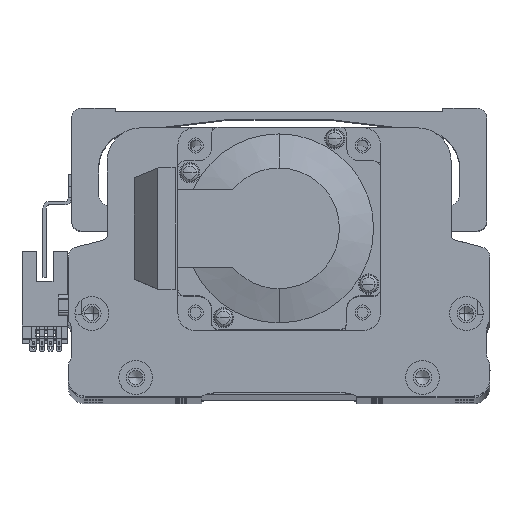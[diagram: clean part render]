
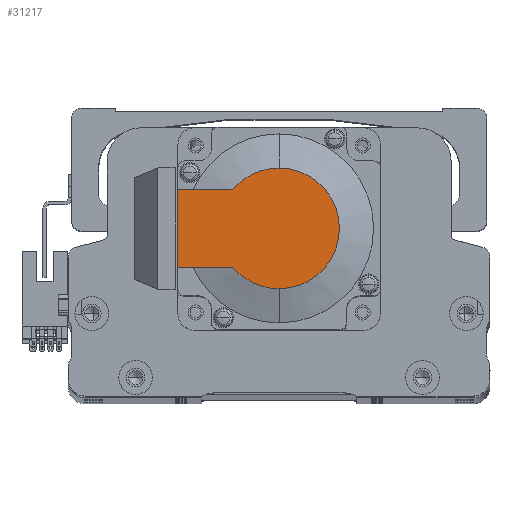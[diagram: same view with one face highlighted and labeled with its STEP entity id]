
A CAD part, top view. The second image highlights one B-rep face of the part: STEP entity #31217.
In plain terms, the highlighted planar face has unit normal (0, 0, 1) as drawn and (-1, 0, 0) by its records, which use the part's own axes.
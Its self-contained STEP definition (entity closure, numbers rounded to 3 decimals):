
#27 = DIRECTION ( 'NONE',  ( -1., 0., 0. ) ) ;
#818 = VERTEX_POINT ( 'NONE', #15491 ) ;
#2413 = LINE ( 'NONE', #35201, #46144 ) ;
#2843 = PLANE ( 'NONE',  #21618 ) ;
#2983 = VERTEX_POINT ( 'NONE', #14250 ) ;
#4711 = LINE ( 'NONE', #46526, #48415 ) ;
#5567 = EDGE_LOOP ( 'NONE', ( #16906, #48361, #18415, #40217, #20954, #53043 ) ) ;
#7184 = AXIS2_PLACEMENT_3D ( 'NONE', #18825, #48366, #23138 ) ;
#7422 = EDGE_CURVE ( 'NONE', #18978, #49454, #45941, .T. ) ;
#8136 = CARTESIAN_POINT ( 'NONE',  ( -118.5, 0., -17.881 ) ) ;
#14250 = CARTESIAN_POINT ( 'NONE',  ( -118.5, 30., -11.45 ) ) ;
#15027 = EDGE_CURVE ( 'NONE', #20169, #23486, #24214, .T. ) ;
#15491 = CARTESIAN_POINT ( 'NONE',  ( -118.5, 30., 11.45 ) ) ;
#16906 = ORIENTED_EDGE ( 'NONE', *, *, #42474, .T. ) ;
#17350 = DIRECTION ( 'NONE',  ( 0., -1., 0. ) ) ;
#17546 = EDGE_CURVE ( 'NONE', #23486, #18978, #36924, .T. ) ;
#17741 = EDGE_CURVE ( 'NONE', #2983, #818, #2413, .T. ) ;
#18401 = DIRECTION ( 'NONE',  ( 0., 0., 1. ) ) ;
#18415 = ORIENTED_EDGE ( 'NONE', *, *, #17546, .T. ) ;
#18825 = CARTESIAN_POINT ( 'NONE',  ( -118.5, 0., 0. ) ) ;
#18978 = VERTEX_POINT ( 'NONE', #53100 ) ;
#19961 = DIRECTION ( 'NONE',  ( -1., 0., 0. ) ) ;
#20169 = VERTEX_POINT ( 'NONE', #37253 ) ;
#20954 = ORIENTED_EDGE ( 'NONE', *, *, #42420, .F. ) ;
#21618 = AXIS2_PLACEMENT_3D ( 'NONE', #45265, #19961, #49498 ) ;
#22585 = AXIS2_PLACEMENT_3D ( 'NONE', #25447, #27, #29697 ) ;
#23138 = DIRECTION ( 'NONE',  ( 0., 0., -1. ) ) ;
#23486 = VERTEX_POINT ( 'NONE', #8136 ) ;
#24214 = CIRCLE ( 'NONE', #39364, 17.881 ) ;
#24436 = CARTESIAN_POINT ( 'NONE',  ( -118.5, 0., 0. ) ) ;
#24634 = VECTOR ( 'NONE', #17350, 1000. ) ;
#25447 = CARTESIAN_POINT ( 'NONE',  ( -118.5, 0., 0. ) ) ;
#28668 = DIRECTION ( 'NONE',  ( 0., 0., -1. ) ) ;
#29697 = DIRECTION ( 'NONE',  ( 0., 0., -1. ) ) ;
#31217 = ADVANCED_FACE ( 'NONE', ( #31659 ), #2843, .T. ) ;
#31659 = FACE_OUTER_BOUND ( 'NONE', #5567, .T. ) ;
#33989 = DIRECTION ( 'NONE',  ( 0., -1., 0. ) ) ;
#35201 = CARTESIAN_POINT ( 'NONE',  ( -118.5, 30., 25. ) ) ;
#35863 = LINE ( 'NONE', #42681, #24634 ) ;
#36924 = CIRCLE ( 'NONE', #22585, 17.881 ) ;
#37253 = CARTESIAN_POINT ( 'NONE',  ( -118.5, 13.735, -11.45 ) ) ;
#37627 = CARTESIAN_POINT ( 'NONE',  ( -118.5, 13.735, 11.45 ) ) ;
#39364 = AXIS2_PLACEMENT_3D ( 'NONE', #24436, #54014, #28668 ) ;
#40217 = ORIENTED_EDGE ( 'NONE', *, *, #7422, .T. ) ;
#42420 = EDGE_CURVE ( 'NONE', #818, #49454, #4711, .T. ) ;
#42474 = EDGE_CURVE ( 'NONE', #2983, #20169, #35863, .T. ) ;
#42681 = CARTESIAN_POINT ( 'NONE',  ( -118.5, -8.941, -11.45 ) ) ;
#45265 = CARTESIAN_POINT ( 'NONE',  ( -118.5, -8.941, 0. ) ) ;
#45941 = CIRCLE ( 'NONE', #7184, 17.881 ) ;
#46144 = VECTOR ( 'NONE', #18401, 1000. ) ;
#46526 = CARTESIAN_POINT ( 'NONE',  ( -118.5, 0., 11.45 ) ) ;
#48361 = ORIENTED_EDGE ( 'NONE', *, *, #15027, .T. ) ;
#48366 = DIRECTION ( 'NONE',  ( -1., 0., 0. ) ) ;
#48415 = VECTOR ( 'NONE', #33989, 1000. ) ;
#49454 = VERTEX_POINT ( 'NONE', #37627 ) ;
#49498 = DIRECTION ( 'NONE',  ( 0., 0., 1. ) ) ;
#53043 = ORIENTED_EDGE ( 'NONE', *, *, #17741, .F. ) ;
#53100 = CARTESIAN_POINT ( 'NONE',  ( -118.5, 0., 17.881 ) ) ;
#54014 = DIRECTION ( 'NONE',  ( -1., 0., 0. ) ) ;
